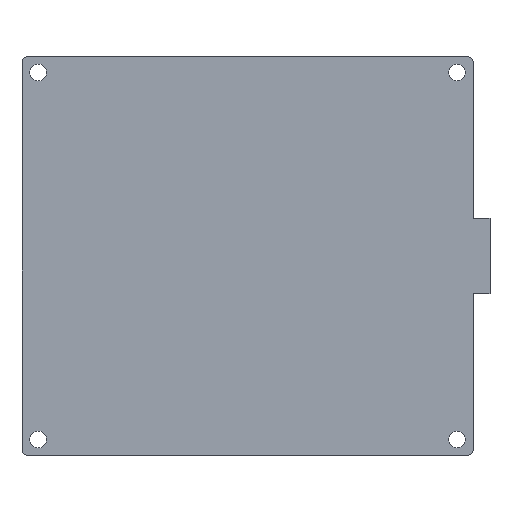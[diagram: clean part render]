
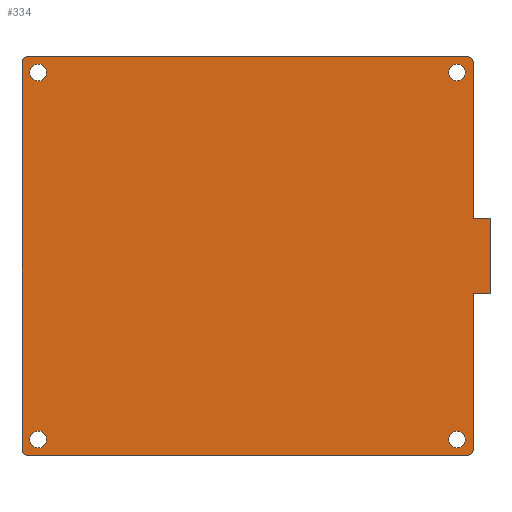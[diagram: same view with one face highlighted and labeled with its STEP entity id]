
A CAD part, top view. The second image highlights one B-rep face of the part: STEP entity #334.
In plain terms, the highlighted planar face has unit normal (0, 0, 1).
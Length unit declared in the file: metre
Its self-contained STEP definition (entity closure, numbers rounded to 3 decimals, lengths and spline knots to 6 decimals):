
#20=CIRCLE('',#366,0.0013);
#21=CIRCLE('',#367,0.0013);
#22=CIRCLE('',#368,0.0013);
#23=CIRCLE('',#369,0.0013);
#24=CIRCLE('',#370,0.001);
#25=CIRCLE('',#371,0.001);
#26=CIRCLE('',#372,0.001);
#27=CIRCLE('',#373,0.001);
#68=ORIENTED_EDGE('',*,*,#152,.F.);
#69=ORIENTED_EDGE('',*,*,#153,.F.);
#70=ORIENTED_EDGE('',*,*,#154,.F.);
#71=ORIENTED_EDGE('',*,*,#155,.F.);
#72=ORIENTED_EDGE('',*,*,#150,.T.);
#73=ORIENTED_EDGE('',*,*,#156,.T.);
#74=ORIENTED_EDGE('',*,*,#124,.F.);
#75=ORIENTED_EDGE('',*,*,#130,.T.);
#76=ORIENTED_EDGE('',*,*,#133,.F.);
#77=ORIENTED_EDGE('',*,*,#136,.F.);
#78=ORIENTED_EDGE('',*,*,#139,.F.);
#79=ORIENTED_EDGE('',*,*,#157,.T.);
#80=ORIENTED_EDGE('',*,*,#142,.F.);
#81=ORIENTED_EDGE('',*,*,#158,.T.);
#82=ORIENTED_EDGE('',*,*,#146,.T.);
#83=ORIENTED_EDGE('',*,*,#159,.T.);
#124=EDGE_CURVE('',#168,#169,#200,.T.);
#130=EDGE_CURVE('',#168,#173,#206,.T.);
#133=EDGE_CURVE('',#175,#173,#209,.T.);
#136=EDGE_CURVE('',#177,#175,#212,.T.);
#139=EDGE_CURVE('',#179,#177,#215,.T.);
#142=EDGE_CURVE('',#182,#183,#218,.T.);
#146=EDGE_CURVE('',#187,#186,#222,.T.);
#150=EDGE_CURVE('',#191,#190,#226,.T.);
#152=EDGE_CURVE('',#192,#192,#20,.T.);
#153=EDGE_CURVE('',#193,#193,#21,.T.);
#154=EDGE_CURVE('',#194,#194,#22,.T.);
#155=EDGE_CURVE('',#195,#195,#23,.T.);
#156=EDGE_CURVE('',#190,#169,#24,.T.);
#157=EDGE_CURVE('',#179,#183,#25,.T.);
#158=EDGE_CURVE('',#182,#187,#26,.T.);
#159=EDGE_CURVE('',#186,#191,#27,.T.);
#168=VERTEX_POINT('',#492);
#169=VERTEX_POINT('',#493);
#173=VERTEX_POINT('',#503);
#175=VERTEX_POINT('',#509);
#177=VERTEX_POINT('',#515);
#179=VERTEX_POINT('',#521);
#182=VERTEX_POINT('',#528);
#183=VERTEX_POINT('',#530);
#186=VERTEX_POINT('',#537);
#187=VERTEX_POINT('',#539);
#190=VERTEX_POINT('',#546);
#191=VERTEX_POINT('',#548);
#192=VERTEX_POINT('',#552);
#193=VERTEX_POINT('',#554);
#194=VERTEX_POINT('',#556);
#195=VERTEX_POINT('',#558);
#200=LINE('',#491,#228);
#206=LINE('',#504,#234);
#209=LINE('',#510,#237);
#212=LINE('',#516,#240);
#215=LINE('',#522,#243);
#218=LINE('',#529,#246);
#222=LINE('',#538,#250);
#226=LINE('',#547,#254);
#228=VECTOR('',#395,1.);
#234=VECTOR('',#403,1.);
#237=VECTOR('',#408,1.);
#240=VECTOR('',#413,1.);
#243=VECTOR('',#418,1.);
#246=VECTOR('',#423,1.);
#250=VECTOR('',#429,1.);
#254=VECTOR('',#435,1.);
#264=EDGE_LOOP('',(#68));
#265=EDGE_LOOP('',(#69));
#266=EDGE_LOOP('',(#70));
#267=EDGE_LOOP('',(#71));
#268=EDGE_LOOP('',(#72,#73,#74,#75,#76,#77,#78,#79,#80,#81,#82,#83));
#294=FACE_BOUND('',#264,.T.);
#295=FACE_BOUND('',#265,.T.);
#296=FACE_BOUND('',#266,.T.);
#297=FACE_BOUND('',#267,.T.);
#298=FACE_BOUND('',#268,.T.);
#324=PLANE('',#365);
#334=ADVANCED_FACE('',(#294,#295,#296,#297,#298),#324,.T.);
#365=AXIS2_PLACEMENT_3D('',#550,#437,#438);
#366=AXIS2_PLACEMENT_3D('',#551,#439,#440);
#367=AXIS2_PLACEMENT_3D('',#553,#441,#442);
#368=AXIS2_PLACEMENT_3D('',#555,#443,#444);
#369=AXIS2_PLACEMENT_3D('',#557,#445,#446);
#370=AXIS2_PLACEMENT_3D('',#559,#447,#448);
#371=AXIS2_PLACEMENT_3D('',#560,#449,#450);
#372=AXIS2_PLACEMENT_3D('',#561,#451,#452);
#373=AXIS2_PLACEMENT_3D('',#562,#453,#454);
#395=DIRECTION('',(0.,-1.,0.));
#403=DIRECTION('',(1.,0.,0.));
#408=DIRECTION('',(0.,-1.,0.));
#413=DIRECTION('',(1.,0.,0.));
#418=DIRECTION('',(0.,-1.,0.));
#423=DIRECTION('',(1.,0.,0.));
#429=DIRECTION('',(0.,-1.,0.));
#435=DIRECTION('',(1.,0.,0.));
#437=DIRECTION('',(0.,0.,1.));
#438=DIRECTION('',(1.,0.,0.));
#439=DIRECTION('',(0.,0.,1.));
#440=DIRECTION('',(1.,0.,0.));
#441=DIRECTION('',(0.,0.,1.));
#442=DIRECTION('',(1.,0.,0.));
#443=DIRECTION('',(0.,0.,1.));
#444=DIRECTION('',(1.,0.,0.));
#445=DIRECTION('',(0.,0.,1.));
#446=DIRECTION('',(1.,0.,0.));
#447=DIRECTION('',(0.,0.,1.));
#448=DIRECTION('',(1.,0.,0.));
#449=DIRECTION('',(0.,0.,1.));
#450=DIRECTION('',(1.,0.,0.));
#451=DIRECTION('',(0.,0.,1.));
#452=DIRECTION('',(1.,0.,0.));
#453=DIRECTION('',(0.,0.,1.));
#454=DIRECTION('',(1.,0.,0.));
#491=CARTESIAN_POINT('',(-0.007584,0.0625,0.003));
#492=CARTESIAN_POINT('',(-0.007584,0.075,0.003));
#493=CARTESIAN_POINT('',(-0.007584,0.051,0.003));
#503=CARTESIAN_POINT('',(-0.004987,0.075,0.003));
#504=CARTESIAN_POINT('',(-0.006285,0.075,0.003));
#509=CARTESIAN_POINT('',(-0.004987,0.0867,0.003));
#510=CARTESIAN_POINT('',(-0.004987,0.08085,0.003));
#515=CARTESIAN_POINT('',(-0.007584,0.0867,0.003));
#516=CARTESIAN_POINT('',(-0.006285,0.0867,0.003));
#521=CARTESIAN_POINT('',(-0.007584,0.1107,0.003));
#522=CARTESIAN_POINT('',(-0.007584,0.0992,0.003));
#528=CARTESIAN_POINT('',(-0.076284,0.1117,0.003));
#529=CARTESIAN_POINT('',(-0.042434,0.1117,0.003));
#530=CARTESIAN_POINT('',(-0.008584,0.1117,0.003));
#537=CARTESIAN_POINT('',(-0.077284,0.051,0.003));
#538=CARTESIAN_POINT('',(-0.077284,0.08085,0.003));
#539=CARTESIAN_POINT('',(-0.077284,0.1107,0.003));
#546=CARTESIAN_POINT('',(-0.008584,0.05,0.003));
#547=CARTESIAN_POINT('',(-0.042434,0.05,0.003));
#548=CARTESIAN_POINT('',(-0.076284,0.05,0.003));
#550=CARTESIAN_POINT('',(-0.041135,0.08085,0.003));
#551=CARTESIAN_POINT('',(-0.010084,0.0525,0.003));
#552=CARTESIAN_POINT('',(-0.008784,0.0525,0.003));
#553=CARTESIAN_POINT('',(-0.010084,0.1092,0.003));
#554=CARTESIAN_POINT('',(-0.008784,0.1092,0.003));
#555=CARTESIAN_POINT('',(-0.074784,0.1092,0.003));
#556=CARTESIAN_POINT('',(-0.073484,0.1092,0.003));
#557=CARTESIAN_POINT('',(-0.074784,0.0525,0.003));
#558=CARTESIAN_POINT('',(-0.073484,0.0525,0.003));
#559=CARTESIAN_POINT('',(-0.008584,0.051,0.003));
#560=CARTESIAN_POINT('',(-0.008584,0.1107,0.003));
#561=CARTESIAN_POINT('',(-0.076284,0.1107,0.003));
#562=CARTESIAN_POINT('',(-0.076284,0.051,0.003));
